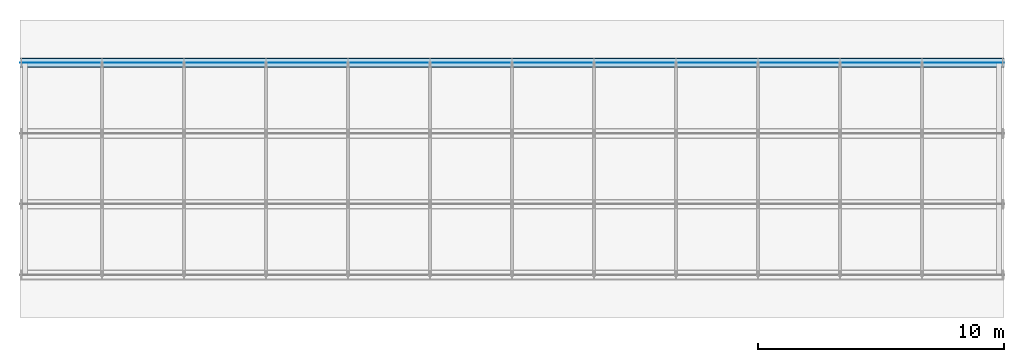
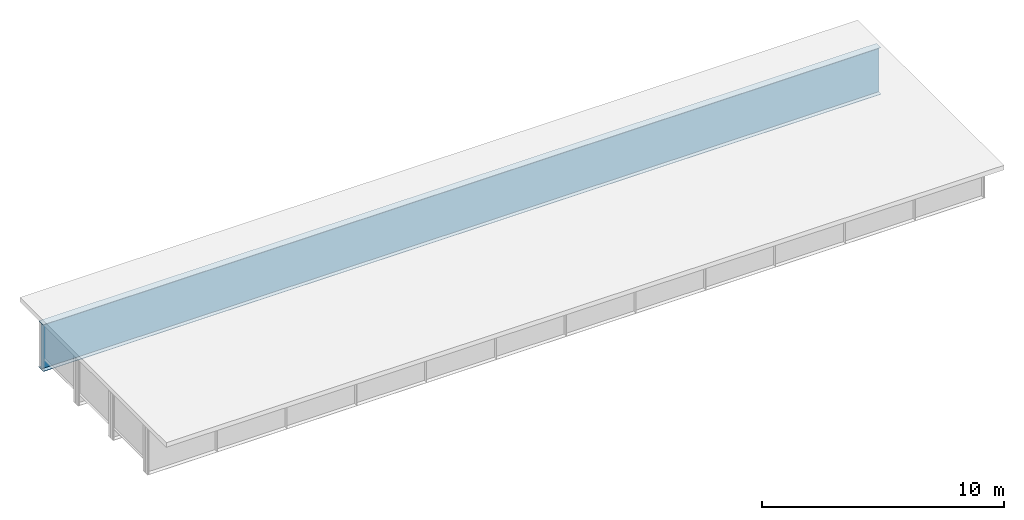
# One storey, part 13 of 15: 3 plates.
"""IFC4 building model written with IfcOpenShell, lengths in metres."""

from ifc_helpers import new_model, si_unit, frame, origin, origin_with_axes, origin_2d_with_axis, place, context, subcontext, project, spatial, rectangle, extrude, element, save


model = new_model("IFC4")

# Units and contexts
model_context = context("Model", 3, precision=1e-05, world=origin())
body_context = subcontext(model_context, "Body", "Model", "MODEL_VIEW")
ifc_project = project(units=[si_unit("LENGTHUNIT", "METRE"), si_unit("AREAUNIT", "SQUARE_METRE"), si_unit("VOLUMEUNIT", "CUBIC_METRE"), si_unit("PLANEANGLEUNIT", "RADIAN")], contexts=[model_context])

# Site, building, storey
site_placement = place(None, origin_with_axes())
site = spatial("IfcSite", under=ifc_project, at=site_placement, Name="Default Site")
building_placement = place(site_placement, origin_with_axes())
building = spatial("IfcBuilding", under=site, at=building_placement, Name="Bridge Structure")
storey_placement = place(building_placement, origin_with_axes())
storey = spatial("IfcBuildingStorey", under=building, at=storey_placement, Name="Superstructure")

# Plates
plate_1_placement = place(storey_placement, frame((0.0, 4.3125, 0.0), z_axis=(1.0, 0.0, 0.0), x_axis=(0.0, 1.0, 0.0)))
element("IfcPlate", 1, at=plate_1_placement, inside=storey, Name="Girder Web 4", context=body_context, shape_type="SweptSolid", body=[
    extrude(rectangle(XDim=0.016, YDim=2.314, at=origin_2d_with_axis()), origin_with_axes(), (0.0, 0.0, 1.0), 40.0),
])
plate_2_placement = place(storey_placement, frame((0.0, 4.3125, 1.165), z_axis=(1.0, 0.0, 0.0), x_axis=(0.0, 1.0, 0.0)))
element("IfcPlate", 2, at=plate_2_placement, inside=storey, Name="Top Flange 4", context=body_context, shape_type="SweptSolid", body=[
    extrude(rectangle(XDim=0.35000000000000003, YDim=0.016, at=origin_2d_with_axis()), origin_with_axes(), (0.0, 0.0, 1.0), 40.0),
])
plate_3_placement = place(storey_placement, frame((0.0, 4.3125, -1.167), z_axis=(1.0, 0.0, 0.0), x_axis=(0.0, 1.0, 0.0)))
element("IfcPlate", 3, at=plate_3_placement, inside=storey, Name="Bottom Flange 4", context=body_context, shape_type="SweptSolid", body=[
    extrude(rectangle(XDim=0.4, YDim=0.02, at=origin_2d_with_axis()), origin_with_axes(), (0.0, 0.0, 1.0), 40.0),
])

save(model, "model.ifc")
